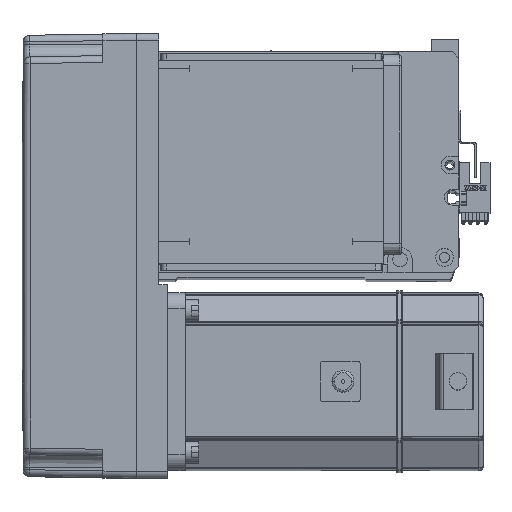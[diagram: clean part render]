
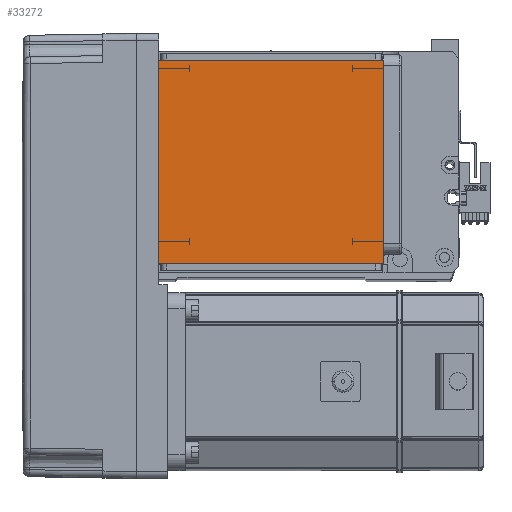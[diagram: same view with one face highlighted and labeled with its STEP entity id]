
A CAD part, top view. The second image highlights one B-rep face of the part: STEP entity #33272.
In plain terms, the highlighted planar face has unit normal (0, 0, 1).
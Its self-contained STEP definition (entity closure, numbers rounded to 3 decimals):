
#1891 = DIRECTION ( 'NONE',  ( 0., 0., 1. ) ) ;
#1994 = EDGE_CURVE ( 'NONE', #4377, #21280, #3998, .T. ) ;
#2903 = CARTESIAN_POINT ( 'NONE',  ( 50.5, 111.5, 115. ) ) ;
#3998 = LINE ( 'NONE', #44969, #36036 ) ;
#4377 = VERTEX_POINT ( 'NONE', #35970 ) ;
#5566 = CARTESIAN_POINT ( 'NONE',  ( -50.5, 20., 115. ) ) ;
#6860 = CARTESIAN_POINT ( 'NONE',  ( 0., 0., 115. ) ) ;
#7629 = CARTESIAN_POINT ( 'NONE',  ( -70.004, 111.5, 115. ) ) ;
#10150 = DIRECTION ( 'NONE',  ( 0., 1., 0. ) ) ;
#11090 = LINE ( 'NONE', #28437, #36305 ) ;
#12617 = ORIENTED_EDGE ( 'NONE', *, *, #18127, .F. ) ;
#17019 = ORIENTED_EDGE ( 'NONE', *, *, #17637, .F. ) ;
#17637 = EDGE_CURVE ( 'NONE', #4377, #25689, #11090, .T. ) ;
#17880 = VECTOR ( 'NONE', #20391, 1000. ) ;
#18127 = EDGE_CURVE ( 'NONE', #29149, #21280, #48478, .T. ) ;
#18945 = ORIENTED_EDGE ( 'NONE', *, *, #45461, .T. ) ;
#20391 = DIRECTION ( 'NONE',  ( 1., 0., 0. ) ) ;
#21280 = VERTEX_POINT ( 'NONE', #2903 ) ;
#22408 = EDGE_LOOP ( 'NONE', ( #12617, #18945, #17019, #43693 ) ) ;
#25689 = VERTEX_POINT ( 'NONE', #5566 ) ;
#28437 = CARTESIAN_POINT ( 'NONE',  ( -70.004, 20., 115. ) ) ;
#29149 = VERTEX_POINT ( 'NONE', #49693 ) ;
#33272 = ADVANCED_FACE ( 'NONE', ( #37151 ), #40900, .T. ) ;
#34040 = DIRECTION ( 'NONE',  ( 0., -1., 0. ) ) ;
#35970 = CARTESIAN_POINT ( 'NONE',  ( 50.5, 20., 115. ) ) ;
#36036 = VECTOR ( 'NONE', #10150, 1000. ) ;
#36305 = VECTOR ( 'NONE', #37793, 1000. ) ;
#36806 = VECTOR ( 'NONE', #34040, 1000. ) ;
#37151 = FACE_OUTER_BOUND ( 'NONE', #22408, .T. ) ;
#37565 = AXIS2_PLACEMENT_3D ( 'NONE', #6860, #1891, #45124 ) ;
#37793 = DIRECTION ( 'NONE',  ( -1., 0., 0. ) ) ;
#40900 = PLANE ( 'NONE',  #37565 ) ;
#43693 = ORIENTED_EDGE ( 'NONE', *, *, #1994, .T. ) ;
#44969 = CARTESIAN_POINT ( 'NONE',  ( 50.5, 122., 115. ) ) ;
#45124 = DIRECTION ( 'NONE',  ( 1., 0., 0. ) ) ;
#45461 = EDGE_CURVE ( 'NONE', #29149, #25689, #49744, .T. ) ;
#48478 = LINE ( 'NONE', #7629, #17880 ) ;
#49693 = CARTESIAN_POINT ( 'NONE',  ( -50.5, 111.5, 115. ) ) ;
#49744 = LINE ( 'NONE', #52689, #36806 ) ;
#52689 = CARTESIAN_POINT ( 'NONE',  ( -50.5, 122., 115. ) ) ;
